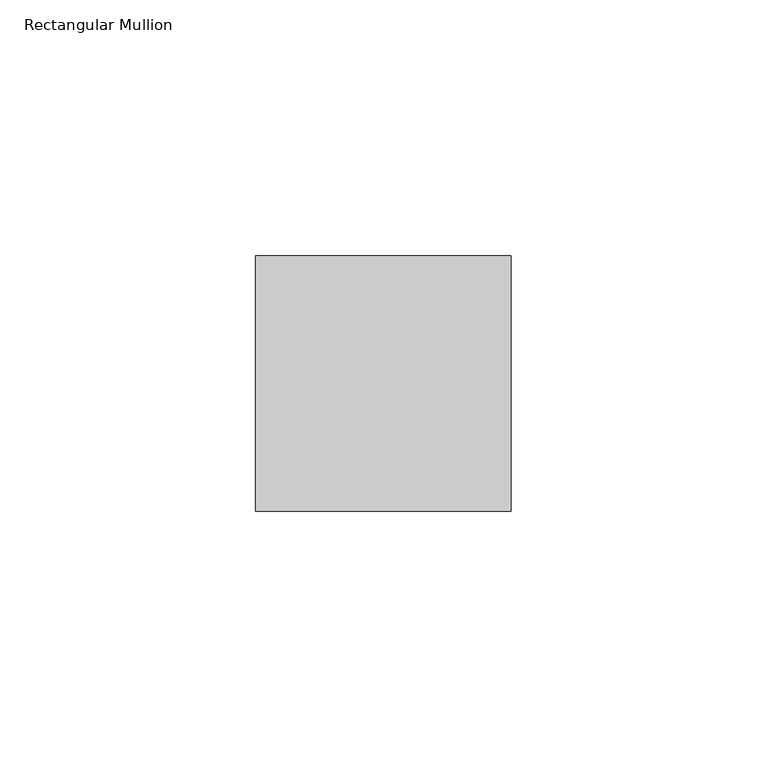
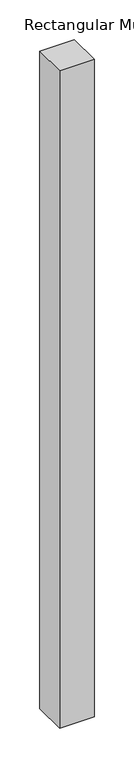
"""IFC4 building model written with IfcOpenShell, lengths in millimetres: member geometry, Rectangular Mullion : Mullion_Curtain Wall_Generic Showcase_50x50mm."""

from ifc_helpers import new_model, si_unit, frame, origin, place, context, project, spatial, polyline, outline, extrude, source, transform, mapped, element, save


def rectangular_mullion_d86abf8a(model_context):
    return source(origin(), model_context, "Body", "SweptSolid", [
        extrude(outline(polyline([(0.0, 50.0), (0.0, 0.0), (-50.0, 0.0), (-50.0, 50.0), (0.0, 50.0)])), frame((0.0, 0.0, -1010.0), z_axis=(0.0, 0.0, 1.0), x_axis=(1.0, 0.0, 0.0)), (0.0, 0.0, 1.0), 1010.0),
    ])


if __name__ == "__main__":
    model = new_model("IFC4")
    model_context = context("Model", 3, world=origin())
    ifc_project = project(units=[si_unit("LENGTHUNIT", "METRE", prefix="MILLI")], contexts=[model_context])
    site = spatial("IfcSite", under=ifc_project)
    building = spatial("IfcBuilding", under=site)
    placement = place(None, origin())
    rectangular_mullion_shape = rectangular_mullion_d86abf8a(model_context)
    element("IfcMember", 1, ObjectType="Rectangular Mullion : Mullion_Curtain Wall_Generic Showcase_50x50mm", at=placement, inside=building, context=model_context, shape_type="MappedRepresentation", body=[
        mapped(rectangular_mullion_shape, transform((0.0, 0.0, 0.0), x_axis=(1.0, 0.0, 0.0), y_axis=(0.0, 1.0, 0.0), z_axis=(0.0, 0.0, 1.0))),
    ])
    save(model, "model.ifc")
